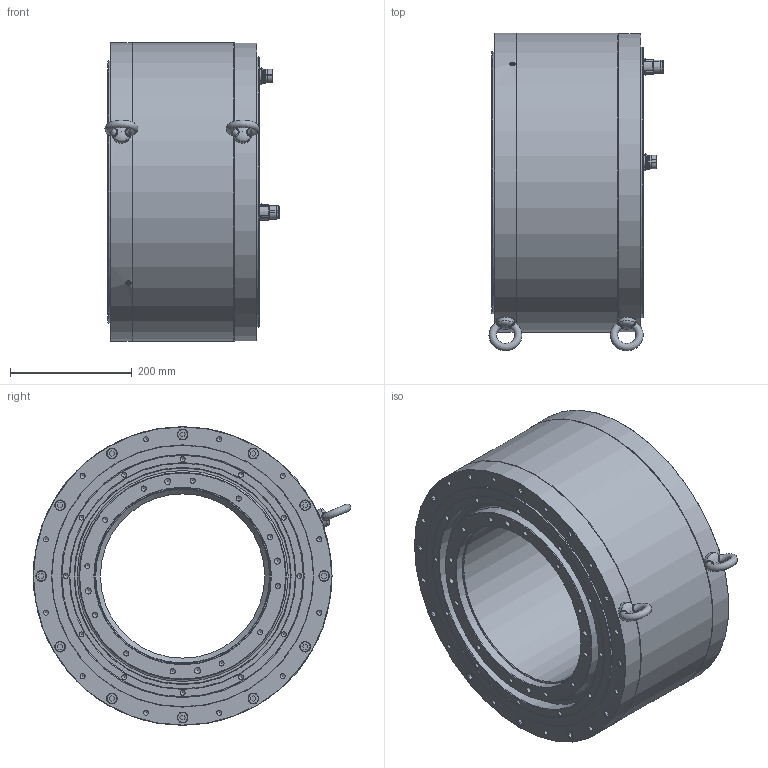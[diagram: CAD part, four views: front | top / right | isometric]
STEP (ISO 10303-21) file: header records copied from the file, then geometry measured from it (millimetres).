
FILE_DESCRIPTION( ( 'Unknown' ), '1' );
FILE_NAME( 'Q:/SKA DDR in acciaio/WEB File/SKA RT 430/3D/430CC038.stp', 'Unknown', ( 'Unknown' ), ( 'Unknown' ), 'PSStep 14.0', 'Unknown', ' ' );
FILE_SCHEMA( ( 'AUTOMOTIVE_DESIGN { 1 0 10303 214 1 1 1 1 }' ) );
Length unit declared in the file: millimetre
Products named in the file (17): Assem1; CN M23 PAN-POT BEGA 120 4 + 4 pin SpTcR; CN M23 PAN-SEG AEGA 139 17 pin SpTcR; 430VV006; Vite a brugola testa cil 8,8 -  M 2,5 x 8; Vite a brugola testa cil 12,9 -  M 10 x 50; Anello OR 3,53 D430,66-41700-oa0; Anello OR 3,53 D430,66-41700-oa1; Anello OR 3,53 D380,6-41500-oa2; Vite a brugola testa svasata 10,9 -  M  4 x 16; 430FF010; 430FC001; 430FP003; Golfare Maschio M12; Grano senza punta M  6 x 10; 430FS026; 430GG012
Assembly tree (53 placements, depth 2):
  Assem1
    CN M23 PAN-POT BEGA 120 4 + 4 pin SpTcR
    CN M23 PAN-SEG AEGA 139 17 pin SpTcR
    430VV006
    Vite a brugola testa cil 8,8 -  M 2,5 x 8  x8
    Vite a brugola testa cil 12,9 -  M 10 x 50  x24
    Anello OR 3,53 D430,66-41700-oa0
    Anello OR 3,53 D430,66-41700-oa1
    Anello OR 3,53 D380,6-41500-oa2
    Vite a brugola testa svasata 10,9 -  M  4 x 16  x6
    430FF010
    430FC001
    430FP003
    Golfare Maschio M12  x2
    Grano senza punta M  6 x 10  x2
    430FS026
    430GG012
Bounding box: 285.49 x 520.75 x 490 mm (x, y, z)
Volume: 19165115.4 mm3; surface area: 2317523.9 mm2
Topology: 53 solids, 53 shells, 1283 faces, 2927 edges, 1907 vertices
Faces by surface type: plane 555, cylinder 451, cone 221, torus 38, sphere 8, bspline 8, revolution 2
Full cylindrical faces by diameter (mm): 1.5 x4, 2 x17, 2.013 x8, 2.5 x12, 2.7 x4, 2.8 x4, 3.242 x16, 3.4 x6, 4 x8, 4.134 x12, 4.5 x6, 4.7 x8, 4.917 x2, 6 x2, 8 x12, 8.376 x96, 8.5 x12, 9 x2, 10 x32, 10.106 x4, 10.5 x36, 11 x2, 12 x2, 16 x24, 17 x2, 17.5 x24, 19.8 x2, 20 x3, 21 x2, 21.5 x2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
Entity records: 26073 total; most frequent: CARTESIAN_POINT 5151, DIRECTION 3467, ORIENTED_EDGE 2122, AXIS2_PLACEMENT_3D 1618, EDGE_LOOP 1568, FACE_OUTER_BOUND 1152, EDGE_CURVE 1061, VERTEX_POINT 1046
